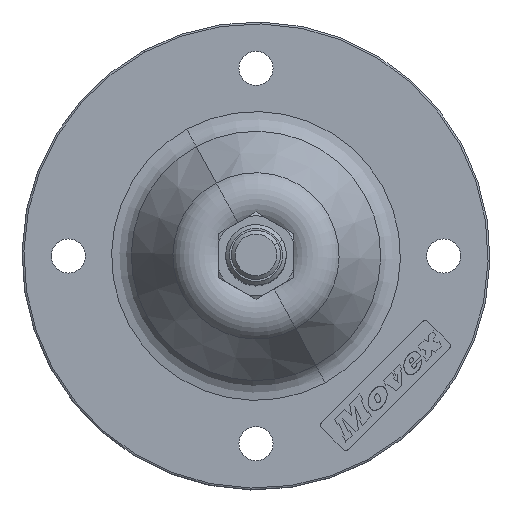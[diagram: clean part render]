
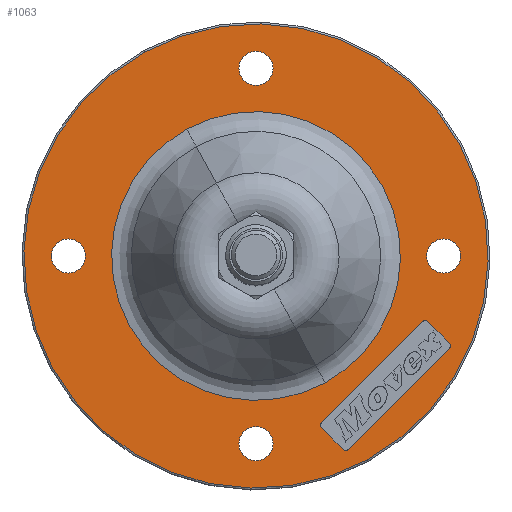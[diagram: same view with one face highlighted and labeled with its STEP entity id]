
A CAD part, top view. The second image highlights one B-rep face of the part: STEP entity #1063.
In plain terms, the highlighted planar face has unit normal (0, 0, 1).
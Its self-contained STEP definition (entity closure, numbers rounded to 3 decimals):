
#80=CARTESIAN_POINT('Vertex',(-54.,0.,4.)) ;
#83=CARTESIAN_POINT('Axis2P3D Location',(-49.5,0.,4.)) ;
#87=CARTESIAN_POINT('Vertex',(-45.,0.,4.)) ;
#107=CARTESIAN_POINT('Axis2P3D Location',(-49.5,0.,4.)) ;
#128=CARTESIAN_POINT('Vertex',(29.365,-53.752,4.)) ;
#144=CARTESIAN_POINT('Vertex',(-29.365,53.752,4.)) ;
#147=CARTESIAN_POINT('Axis2P3D Location',(0.,0.,4.)) ;
#169=CARTESIAN_POINT('Axis2P3D Location',(0.,0.,4.)) ;
#733=CARTESIAN_POINT('Vertex',(-18.263,33.431,4.)) ;
#740=CARTESIAN_POINT('Vertex',(18.263,-33.431,4.)) ;
#743=CARTESIAN_POINT('Axis2P3D Location',(0.,0.,4.)) ;
#755=CARTESIAN_POINT('Axis2P3D Location',(0.,0.,4.)) ;
#785=CARTESIAN_POINT('Vertex',(45.,0.,4.)) ;
#788=CARTESIAN_POINT('Axis2P3D Location',(49.5,0.,4.)) ;
#792=CARTESIAN_POINT('Vertex',(54.,0.,4.)) ;
#812=CARTESIAN_POINT('Axis2P3D Location',(49.5,0.,4.)) ;
#891=CARTESIAN_POINT('Vertex',(0.,54.,4.)) ;
#894=CARTESIAN_POINT('Axis2P3D Location',(0.,49.5,4.)) ;
#898=CARTESIAN_POINT('Vertex',(0.,45.,4.)) ;
#913=CARTESIAN_POINT('Axis2P3D Location',(0.,49.5,4.)) ;
#934=CARTESIAN_POINT('Vertex',(0.,-45.,4.)) ;
#937=CARTESIAN_POINT('Axis2P3D Location',(0.,-49.5,4.)) ;
#941=CARTESIAN_POINT('Vertex',(0.,-54.,4.)) ;
#956=CARTESIAN_POINT('Axis2P3D Location',(0.,-49.5,4.)) ;
#968=CARTESIAN_POINT('Axis2P3D Location',(0.,61.75,4.)) ;
#997=CARTESIAN_POINT('Axis2P3D Location',(50.373,-23.643,4.)) ;
#1001=CARTESIAN_POINT('Vertex',(51.009,-24.28,4.)) ;
#1003=CARTESIAN_POINT('Vertex',(51.009,-23.007,4.)) ;
#1006=CARTESIAN_POINT('Line Origine',(37.645,-37.644,4.)) ;
#1010=CARTESIAN_POINT('Vertex',(24.281,-51.008,4.)) ;
#1013=CARTESIAN_POINT('Axis2P3D Location',(23.644,-50.372,4.)) ;
#1017=CARTESIAN_POINT('Vertex',(23.008,-51.008,4.)) ;
#1020=CARTESIAN_POINT('Line Origine',(20.144,-48.145,4.)) ;
#1024=CARTESIAN_POINT('Vertex',(17.281,-45.281,4.)) ;
#1027=CARTESIAN_POINT('Axis2P3D Location',(17.917,-44.645,4.)) ;
#1031=CARTESIAN_POINT('Vertex',(17.281,-44.008,4.)) ;
#1034=CARTESIAN_POINT('Line Origine',(30.645,-30.644,4.)) ;
#1038=CARTESIAN_POINT('Vertex',(44.009,-17.28,4.)) ;
#1041=CARTESIAN_POINT('Axis2P3D Location',(44.646,-17.916,4.)) ;
#1045=CARTESIAN_POINT('Vertex',(45.282,-17.28,4.)) ;
#1048=CARTESIAN_POINT('Line Origine',(48.145,-20.143,4.)) ;
#84=DIRECTION('Axis2P3D Direction',(0.,0.,1.)) ;
#108=DIRECTION('Axis2P3D Direction',(0.,0.,1.)) ;
#148=DIRECTION('Axis2P3D Direction',(0.,0.,1.)) ;
#170=DIRECTION('Axis2P3D Direction',(0.,-0.,1.)) ;
#744=DIRECTION('Axis2P3D Direction',(0.,0.,1.)) ;
#756=DIRECTION('Axis2P3D Direction',(0.,0.,1.)) ;
#789=DIRECTION('Axis2P3D Direction',(0.,0.,1.)) ;
#813=DIRECTION('Axis2P3D Direction',(0.,0.,1.)) ;
#895=DIRECTION('Axis2P3D Direction',(0.,-0.,1.)) ;
#914=DIRECTION('Axis2P3D Direction',(0.,-0.,1.)) ;
#938=DIRECTION('Axis2P3D Direction',(0.,-0.,1.)) ;
#957=DIRECTION('Axis2P3D Direction',(0.,-0.,1.)) ;
#969=DIRECTION('Axis2P3D Direction',(0.,0.,1.)) ;
#970=DIRECTION('Axis2P3D XDirection',(1.,0.,0.)) ;
#998=DIRECTION('Axis2P3D Direction',(0.,0.,1.)) ;
#1007=DIRECTION('Vector Direction',(0.707,0.707,0.)) ;
#1014=DIRECTION('Axis2P3D Direction',(0.,0.,1.)) ;
#1021=DIRECTION('Vector Direction',(-0.707,0.707,0.)) ;
#1028=DIRECTION('Axis2P3D Direction',(0.,0.,1.)) ;
#1035=DIRECTION('Vector Direction',(0.707,0.707,0.)) ;
#1042=DIRECTION('Axis2P3D Direction',(0.,0.,1.)) ;
#1049=DIRECTION('Vector Direction',(0.707,-0.707,0.)) ;
#85=AXIS2_PLACEMENT_3D('Circle Axis2P3D',#83,#84,$) ;
#109=AXIS2_PLACEMENT_3D('Circle Axis2P3D',#107,#108,$) ;
#149=AXIS2_PLACEMENT_3D('Circle Axis2P3D',#147,#148,$) ;
#171=AXIS2_PLACEMENT_3D('Circle Axis2P3D',#169,#170,$) ;
#745=AXIS2_PLACEMENT_3D('Circle Axis2P3D',#743,#744,$) ;
#757=AXIS2_PLACEMENT_3D('Circle Axis2P3D',#755,#756,$) ;
#790=AXIS2_PLACEMENT_3D('Circle Axis2P3D',#788,#789,$) ;
#814=AXIS2_PLACEMENT_3D('Circle Axis2P3D',#812,#813,$) ;
#896=AXIS2_PLACEMENT_3D('Circle Axis2P3D',#894,#895,$) ;
#915=AXIS2_PLACEMENT_3D('Circle Axis2P3D',#913,#914,$) ;
#939=AXIS2_PLACEMENT_3D('Circle Axis2P3D',#937,#938,$) ;
#958=AXIS2_PLACEMENT_3D('Circle Axis2P3D',#956,#957,$) ;
#971=AXIS2_PLACEMENT_3D('Plane Axis2P3D',#968,#969,#970) ;
#999=AXIS2_PLACEMENT_3D('Circle Axis2P3D',#997,#998,$) ;
#1015=AXIS2_PLACEMENT_3D('Circle Axis2P3D',#1013,#1014,$) ;
#1029=AXIS2_PLACEMENT_3D('Circle Axis2P3D',#1027,#1028,$) ;
#1043=AXIS2_PLACEMENT_3D('Circle Axis2P3D',#1041,#1042,$) ;
#974=ORIENTED_EDGE('',*,*,#151,.T.) ;
#975=ORIENTED_EDGE('',*,*,#173,.T.) ;
#978=ORIENTED_EDGE('',*,*,#111,.F.) ;
#979=ORIENTED_EDGE('',*,*,#89,.F.) ;
#982=ORIENTED_EDGE('',*,*,#816,.F.) ;
#983=ORIENTED_EDGE('',*,*,#794,.F.) ;
#986=ORIENTED_EDGE('',*,*,#759,.F.) ;
#987=ORIENTED_EDGE('',*,*,#747,.F.) ;
#990=ORIENTED_EDGE('',*,*,#943,.F.) ;
#991=ORIENTED_EDGE('',*,*,#960,.F.) ;
#994=ORIENTED_EDGE('',*,*,#900,.F.) ;
#995=ORIENTED_EDGE('',*,*,#917,.F.) ;
#1054=ORIENTED_EDGE('',*,*,#1005,.F.) ;
#1055=ORIENTED_EDGE('',*,*,#1012,.F.) ;
#1056=ORIENTED_EDGE('',*,*,#1019,.F.) ;
#1057=ORIENTED_EDGE('',*,*,#1026,.F.) ;
#1058=ORIENTED_EDGE('',*,*,#1033,.F.) ;
#1059=ORIENTED_EDGE('',*,*,#1040,.F.) ;
#1060=ORIENTED_EDGE('',*,*,#1047,.F.) ;
#1061=ORIENTED_EDGE('',*,*,#1052,.F.) ;
#980=FACE_BOUND('',#977,.T.) ;
#984=FACE_BOUND('',#981,.T.) ;
#988=FACE_BOUND('',#985,.T.) ;
#992=FACE_BOUND('',#989,.T.) ;
#996=FACE_BOUND('',#993,.T.) ;
#1062=FACE_BOUND('',#1053,.T.) ;
#1008=VECTOR('Line Direction',#1007,1.) ;
#1022=VECTOR('Line Direction',#1021,1.) ;
#1036=VECTOR('Line Direction',#1035,1.) ;
#1050=VECTOR('Line Direction',#1049,1.) ;
#1063=ADVANCED_FACE('PartBody',(#976,#980,#984,#988,#992,#996,#1062),#972,.T.) ;
#86=CIRCLE('generated circle',#85,4.5) ;
#110=CIRCLE('generated circle',#109,4.5) ;
#150=CIRCLE('generated circle',#149,61.25) ;
#172=CIRCLE('generated circle',#171,61.25) ;
#746=CIRCLE('generated circle',#745,38.094) ;
#758=CIRCLE('generated circle',#757,38.094) ;
#791=CIRCLE('generated circle',#790,4.5) ;
#815=CIRCLE('generated circle',#814,4.5) ;
#897=CIRCLE('generated circle',#896,4.5) ;
#916=CIRCLE('generated circle',#915,4.5) ;
#940=CIRCLE('generated circle',#939,4.5) ;
#959=CIRCLE('generated circle',#958,4.5) ;
#1000=CIRCLE('generated circle',#999,0.9) ;
#1016=CIRCLE('generated circle',#1015,0.9) ;
#1030=CIRCLE('generated circle',#1029,0.9) ;
#1044=CIRCLE('generated circle',#1043,0.9) ;
#89=EDGE_CURVE('',#81,#88,#86,.T.) ;
#111=EDGE_CURVE('',#88,#81,#110,.T.) ;
#151=EDGE_CURVE('',#129,#145,#150,.T.) ;
#173=EDGE_CURVE('',#145,#129,#172,.T.) ;
#747=EDGE_CURVE('',#741,#734,#746,.T.) ;
#759=EDGE_CURVE('',#734,#741,#758,.T.) ;
#794=EDGE_CURVE('',#786,#793,#791,.T.) ;
#816=EDGE_CURVE('',#793,#786,#815,.T.) ;
#900=EDGE_CURVE('',#892,#899,#897,.T.) ;
#917=EDGE_CURVE('',#899,#892,#916,.T.) ;
#943=EDGE_CURVE('',#935,#942,#940,.T.) ;
#960=EDGE_CURVE('',#942,#935,#959,.T.) ;
#1005=EDGE_CURVE('',#1002,#1004,#1000,.T.) ;
#1012=EDGE_CURVE('',#1011,#1002,#1009,.T.) ;
#1019=EDGE_CURVE('',#1018,#1011,#1016,.T.) ;
#1026=EDGE_CURVE('',#1025,#1018,#1023,.F.) ;
#1033=EDGE_CURVE('',#1032,#1025,#1030,.T.) ;
#1040=EDGE_CURVE('',#1039,#1032,#1037,.F.) ;
#1047=EDGE_CURVE('',#1046,#1039,#1044,.T.) ;
#1052=EDGE_CURVE('',#1004,#1046,#1051,.F.) ;
#973=EDGE_LOOP('',(#974,#975)) ;
#977=EDGE_LOOP('',(#978,#979)) ;
#981=EDGE_LOOP('',(#982,#983)) ;
#985=EDGE_LOOP('',(#986,#987)) ;
#989=EDGE_LOOP('',(#990,#991)) ;
#993=EDGE_LOOP('',(#994,#995)) ;
#1053=EDGE_LOOP('',(#1054,#1055,#1056,#1057,#1058,#1059,#1060,#1061)) ;
#976=FACE_OUTER_BOUND('',#973,.T.) ;
#1009=LINE('Line',#1006,#1008) ;
#1023=LINE('Line',#1020,#1022) ;
#1037=LINE('Line',#1034,#1036) ;
#1051=LINE('Line',#1048,#1050) ;
#972=PLANE('',#971) ;
#81=VERTEX_POINT('',#80) ;
#88=VERTEX_POINT('',#87) ;
#129=VERTEX_POINT('',#128) ;
#145=VERTEX_POINT('',#144) ;
#734=VERTEX_POINT('',#733) ;
#741=VERTEX_POINT('',#740) ;
#786=VERTEX_POINT('',#785) ;
#793=VERTEX_POINT('',#792) ;
#892=VERTEX_POINT('',#891) ;
#899=VERTEX_POINT('',#898) ;
#935=VERTEX_POINT('',#934) ;
#942=VERTEX_POINT('',#941) ;
#1002=VERTEX_POINT('',#1001) ;
#1004=VERTEX_POINT('',#1003) ;
#1011=VERTEX_POINT('',#1010) ;
#1018=VERTEX_POINT('',#1017) ;
#1025=VERTEX_POINT('',#1024) ;
#1032=VERTEX_POINT('',#1031) ;
#1039=VERTEX_POINT('',#1038) ;
#1046=VERTEX_POINT('',#1045) ;
